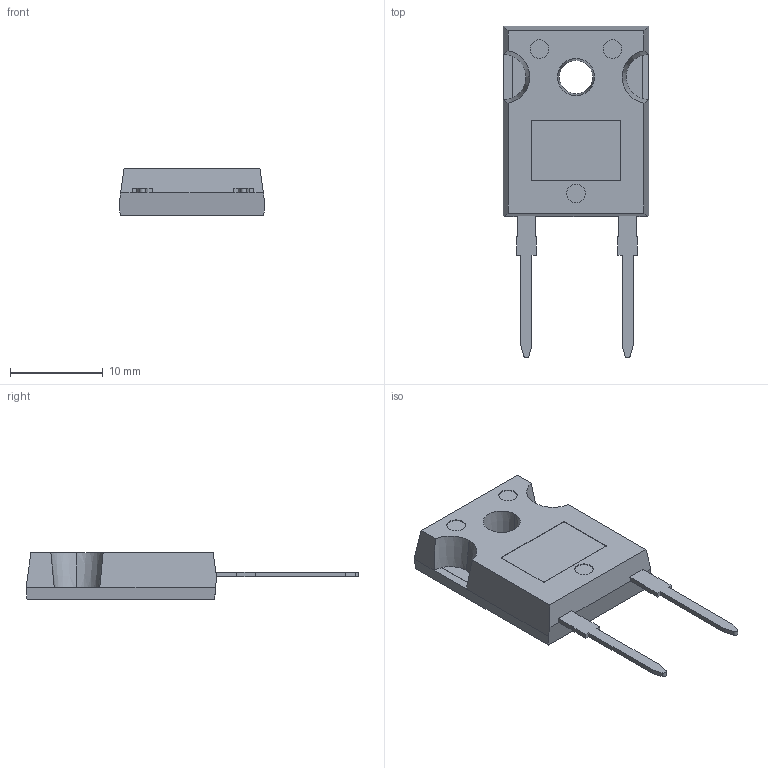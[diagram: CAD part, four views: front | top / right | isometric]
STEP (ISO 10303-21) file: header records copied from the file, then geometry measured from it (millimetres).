
FILE_DESCRIPTION (( 'STEP AP203' ), '1' );
FILE_NAME ('TO247V-2L FULL.STEP', '2019-01-08T08:44:11', ( '' ), ( '' ), 'SwSTEP 2.0', 'SolidWorks 2008', '' );
FILE_SCHEMA (( 'CONFIG_CONTROL_DESIGN' ));
Length unit declared in the file: millimetre
Products named in the file (3): TO247V-2L_默认; TO247V-2L FULL; TO247VPKG-2L_默认
Assembly tree (2 placements, depth 2):
  TO247V-2L FULL
    TO247V-2L_默认
    TO247VPKG-2L_默认
Bounding box: 15.7 x 35.81 x 5.02 mm (x, y, z)
Volume: 1436.3 mm3; surface area: 1905.1 mm2
Topology: 3 solids, 3 shells, 305 faces, 839 edges, 540 vertices
Faces by surface type: plane 268, cylinder 28, cone 9
Entity records: 9810 total; most frequent: CARTESIAN_POINT 1761, ORIENTED_EDGE 1678, DIRECTION 1513, EDGE_CURVE 839, LINE 737, VECTOR 737, VERTEX_POINT 540, AXIS2_PLACEMENT_3D 388
